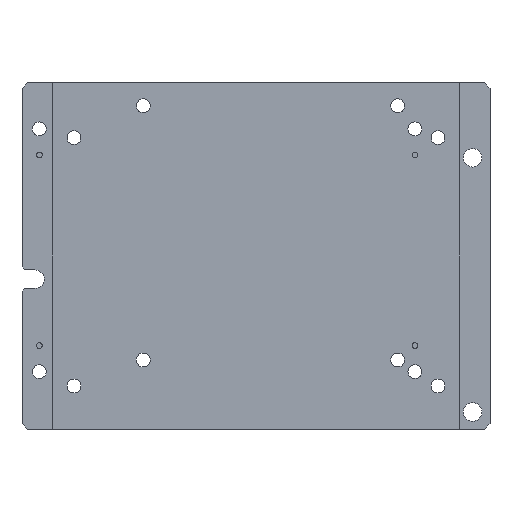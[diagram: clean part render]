
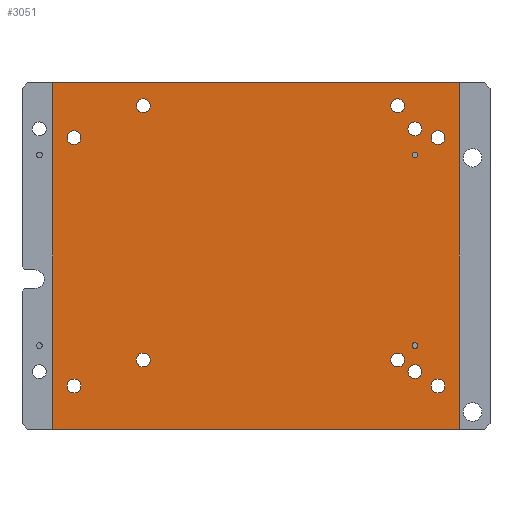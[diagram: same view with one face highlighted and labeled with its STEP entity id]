
A CAD part, front view. The second image highlights one B-rep face of the part: STEP entity #3051.
In plain terms, the highlighted planar face has unit normal (0, -1, 0).
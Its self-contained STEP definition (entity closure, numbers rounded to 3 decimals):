
#740=CARTESIAN_POINT('Axis2P3D Location',(32.5,-6.75,22.5)) ;
#744=CARTESIAN_POINT('Vertex',(32.,-6.75,22.5)) ;
#746=CARTESIAN_POINT('Vertex',(33.,-6.75,22.5)) ;
#775=CARTESIAN_POINT('Axis2P3D Location',(32.5,-6.75,22.5)) ;
#797=CARTESIAN_POINT('Axis2P3D Location',(32.5,-6.75,55.5)) ;
#801=CARTESIAN_POINT('Vertex',(32.,-6.75,55.5)) ;
#803=CARTESIAN_POINT('Vertex',(33.,-6.75,55.5)) ;
#832=CARTESIAN_POINT('Axis2P3D Location',(32.5,-6.75,55.5)) ;
#854=CARTESIAN_POINT('Axis2P3D Location',(-26.5,-6.75,58.5)) ;
#858=CARTESIAN_POINT('Vertex',(-27.7,-6.75,58.5)) ;
#860=CARTESIAN_POINT('Vertex',(-25.3,-6.75,58.5)) ;
#889=CARTESIAN_POINT('Axis2P3D Location',(-26.5,-6.75,58.5)) ;
#911=CARTESIAN_POINT('Axis2P3D Location',(-26.5,-6.75,15.5)) ;
#915=CARTESIAN_POINT('Vertex',(-27.7,-6.75,15.5)) ;
#917=CARTESIAN_POINT('Vertex',(-25.3,-6.75,15.5)) ;
#946=CARTESIAN_POINT('Axis2P3D Location',(-26.5,-6.75,15.5)) ;
#968=CARTESIAN_POINT('Axis2P3D Location',(32.5,-6.75,60.)) ;
#972=CARTESIAN_POINT('Vertex',(31.3,-6.75,60.)) ;
#974=CARTESIAN_POINT('Vertex',(33.7,-6.75,60.)) ;
#1003=CARTESIAN_POINT('Axis2P3D Location',(32.5,-6.75,60.)) ;
#1025=CARTESIAN_POINT('Axis2P3D Location',(36.5,-6.75,15.5)) ;
#1029=CARTESIAN_POINT('Vertex',(35.3,-6.75,15.5)) ;
#1031=CARTESIAN_POINT('Vertex',(37.7,-6.75,15.5)) ;
#1060=CARTESIAN_POINT('Axis2P3D Location',(36.5,-6.75,15.5)) ;
#1082=CARTESIAN_POINT('Axis2P3D Location',(32.5,-6.75,18.)) ;
#1086=CARTESIAN_POINT('Vertex',(31.3,-6.75,18.)) ;
#1088=CARTESIAN_POINT('Vertex',(33.7,-6.75,18.)) ;
#1117=CARTESIAN_POINT('Axis2P3D Location',(32.5,-6.75,18.)) ;
#1139=CARTESIAN_POINT('Axis2P3D Location',(36.5,-6.75,58.5)) ;
#1143=CARTESIAN_POINT('Vertex',(35.3,-6.75,58.5)) ;
#1145=CARTESIAN_POINT('Vertex',(37.7,-6.75,58.5)) ;
#1174=CARTESIAN_POINT('Axis2P3D Location',(36.5,-6.75,58.5)) ;
#1202=CARTESIAN_POINT('Vertex',(-30.2,-6.75,8.)) ;
#1205=CARTESIAN_POINT('Line Origine',(-30.2,-6.75,38.)) ;
#1209=CARTESIAN_POINT('Vertex',(-30.2,-6.75,68.)) ;
#1242=CARTESIAN_POINT('Vertex',(40.2,-6.75,68.)) ;
#1245=CARTESIAN_POINT('Line Origine',(40.2,-6.75,38.)) ;
#1249=CARTESIAN_POINT('Vertex',(40.2,-6.75,8.)) ;
#2441=CARTESIAN_POINT('Line Origine',(5.,-6.75,68.)) ;
#2720=CARTESIAN_POINT('Line Origine',(5.,-6.75,8.)) ;
#2936=CARTESIAN_POINT('Axis2P3D Location',(0.,-6.75,0.)) ;
#2979=CARTESIAN_POINT('Axis2P3D Location',(29.5,-6.75,64.)) ;
#2983=CARTESIAN_POINT('Vertex',(30.7,-6.75,64.)) ;
#2985=CARTESIAN_POINT('Vertex',(28.3,-6.75,64.)) ;
#2988=CARTESIAN_POINT('Axis2P3D Location',(29.5,-6.75,64.)) ;
#2997=CARTESIAN_POINT('Axis2P3D Location',(29.5,-6.75,20.)) ;
#3001=CARTESIAN_POINT('Vertex',(30.7,-6.75,20.)) ;
#3003=CARTESIAN_POINT('Vertex',(28.3,-6.75,20.)) ;
#3006=CARTESIAN_POINT('Axis2P3D Location',(29.5,-6.75,20.)) ;
#3015=CARTESIAN_POINT('Axis2P3D Location',(-14.5,-6.75,64.)) ;
#3019=CARTESIAN_POINT('Vertex',(-13.3,-6.75,64.)) ;
#3021=CARTESIAN_POINT('Vertex',(-15.7,-6.75,64.)) ;
#3024=CARTESIAN_POINT('Axis2P3D Location',(-14.5,-6.75,64.)) ;
#3033=CARTESIAN_POINT('Axis2P3D Location',(-14.5,-6.75,20.)) ;
#3037=CARTESIAN_POINT('Vertex',(-13.3,-6.75,20.)) ;
#3039=CARTESIAN_POINT('Vertex',(-15.7,-6.75,20.)) ;
#3042=CARTESIAN_POINT('Axis2P3D Location',(-14.5,-6.75,20.)) ;
#1207=VECTOR('Line Direction',#1206,1.) ;
#1247=VECTOR('Line Direction',#1246,1.) ;
#2443=VECTOR('Line Direction',#2442,1.) ;
#2722=VECTOR('Line Direction',#2721,1.) ;
#741=DIRECTION('Axis2P3D Direction',(-0.,1.,0.)) ;
#776=DIRECTION('Axis2P3D Direction',(-0.,1.,0.)) ;
#798=DIRECTION('Axis2P3D Direction',(-0.,1.,0.)) ;
#833=DIRECTION('Axis2P3D Direction',(-0.,1.,0.)) ;
#855=DIRECTION('Axis2P3D Direction',(-0.,1.,0.)) ;
#890=DIRECTION('Axis2P3D Direction',(-0.,1.,0.)) ;
#912=DIRECTION('Axis2P3D Direction',(-0.,1.,0.)) ;
#947=DIRECTION('Axis2P3D Direction',(-0.,1.,0.)) ;
#969=DIRECTION('Axis2P3D Direction',(-0.,1.,0.)) ;
#1004=DIRECTION('Axis2P3D Direction',(-0.,1.,0.)) ;
#1026=DIRECTION('Axis2P3D Direction',(-0.,1.,0.)) ;
#1061=DIRECTION('Axis2P3D Direction',(-0.,1.,0.)) ;
#1083=DIRECTION('Axis2P3D Direction',(-0.,1.,0.)) ;
#1118=DIRECTION('Axis2P3D Direction',(-0.,1.,0.)) ;
#1140=DIRECTION('Axis2P3D Direction',(-0.,1.,0.)) ;
#1175=DIRECTION('Axis2P3D Direction',(-0.,1.,0.)) ;
#1206=DIRECTION('Vector Direction',(0.,0.,-1.)) ;
#1246=DIRECTION('Vector Direction',(0.,0.,1.)) ;
#2442=DIRECTION('Vector Direction',(1.,0.,0.)) ;
#2721=DIRECTION('Vector Direction',(1.,0.,0.)) ;
#2937=DIRECTION('Axis2P3D Direction',(0.,-1.,0.)) ;
#2938=DIRECTION('Axis2P3D XDirection',(1.,0.,0.)) ;
#2980=DIRECTION('Axis2P3D Direction',(0.,-1.,0.)) ;
#2989=DIRECTION('Axis2P3D Direction',(0.,-1.,0.)) ;
#2998=DIRECTION('Axis2P3D Direction',(0.,-1.,0.)) ;
#3007=DIRECTION('Axis2P3D Direction',(0.,-1.,0.)) ;
#3016=DIRECTION('Axis2P3D Direction',(0.,-1.,0.)) ;
#3025=DIRECTION('Axis2P3D Direction',(0.,-1.,0.)) ;
#3034=DIRECTION('Axis2P3D Direction',(0.,-1.,0.)) ;
#3043=DIRECTION('Axis2P3D Direction',(0.,-1.,0.)) ;
#742=AXIS2_PLACEMENT_3D('Circle Axis2P3D',#740,#741,$) ;
#777=AXIS2_PLACEMENT_3D('Circle Axis2P3D',#775,#776,$) ;
#799=AXIS2_PLACEMENT_3D('Circle Axis2P3D',#797,#798,$) ;
#834=AXIS2_PLACEMENT_3D('Circle Axis2P3D',#832,#833,$) ;
#856=AXIS2_PLACEMENT_3D('Circle Axis2P3D',#854,#855,$) ;
#891=AXIS2_PLACEMENT_3D('Circle Axis2P3D',#889,#890,$) ;
#913=AXIS2_PLACEMENT_3D('Circle Axis2P3D',#911,#912,$) ;
#948=AXIS2_PLACEMENT_3D('Circle Axis2P3D',#946,#947,$) ;
#970=AXIS2_PLACEMENT_3D('Circle Axis2P3D',#968,#969,$) ;
#1005=AXIS2_PLACEMENT_3D('Circle Axis2P3D',#1003,#1004,$) ;
#1027=AXIS2_PLACEMENT_3D('Circle Axis2P3D',#1025,#1026,$) ;
#1062=AXIS2_PLACEMENT_3D('Circle Axis2P3D',#1060,#1061,$) ;
#1084=AXIS2_PLACEMENT_3D('Circle Axis2P3D',#1082,#1083,$) ;
#1119=AXIS2_PLACEMENT_3D('Circle Axis2P3D',#1117,#1118,$) ;
#1141=AXIS2_PLACEMENT_3D('Circle Axis2P3D',#1139,#1140,$) ;
#1176=AXIS2_PLACEMENT_3D('Circle Axis2P3D',#1174,#1175,$) ;
#2939=AXIS2_PLACEMENT_3D('Plane Axis2P3D',#2936,#2937,#2938) ;
#2981=AXIS2_PLACEMENT_3D('Circle Axis2P3D',#2979,#2980,$) ;
#2990=AXIS2_PLACEMENT_3D('Circle Axis2P3D',#2988,#2989,$) ;
#2999=AXIS2_PLACEMENT_3D('Circle Axis2P3D',#2997,#2998,$) ;
#3008=AXIS2_PLACEMENT_3D('Circle Axis2P3D',#3006,#3007,$) ;
#3017=AXIS2_PLACEMENT_3D('Circle Axis2P3D',#3015,#3016,$) ;
#3026=AXIS2_PLACEMENT_3D('Circle Axis2P3D',#3024,#3025,$) ;
#3035=AXIS2_PLACEMENT_3D('Circle Axis2P3D',#3033,#3034,$) ;
#3044=AXIS2_PLACEMENT_3D('Circle Axis2P3D',#3042,#3043,$) ;
#1208=LINE('Line',#1205,#1207) ;
#1248=LINE('Line',#1245,#1247) ;
#2444=LINE('Line',#2441,#2443) ;
#2723=LINE('Line',#2720,#2722) ;
#743=CIRCLE('generated circle',#742,0.5) ;
#778=CIRCLE('generated circle',#777,0.5) ;
#800=CIRCLE('generated circle',#799,0.5) ;
#835=CIRCLE('generated circle',#834,0.5) ;
#857=CIRCLE('generated circle',#856,1.2) ;
#892=CIRCLE('generated circle',#891,1.2) ;
#914=CIRCLE('generated circle',#913,1.2) ;
#949=CIRCLE('generated circle',#948,1.2) ;
#971=CIRCLE('generated circle',#970,1.2) ;
#1006=CIRCLE('generated circle',#1005,1.2) ;
#1028=CIRCLE('generated circle',#1027,1.2) ;
#1063=CIRCLE('generated circle',#1062,1.2) ;
#1085=CIRCLE('generated circle',#1084,1.2) ;
#1120=CIRCLE('generated circle',#1119,1.2) ;
#1142=CIRCLE('generated circle',#1141,1.2) ;
#1177=CIRCLE('generated circle',#1176,1.2) ;
#2982=CIRCLE('generated circle',#2981,1.2) ;
#2991=CIRCLE('generated circle',#2990,1.2) ;
#3000=CIRCLE('generated circle',#2999,1.2) ;
#3009=CIRCLE('generated circle',#3008,1.2) ;
#3018=CIRCLE('generated circle',#3017,1.2) ;
#3027=CIRCLE('generated circle',#3026,1.2) ;
#3036=CIRCLE('generated circle',#3035,1.2) ;
#3045=CIRCLE('generated circle',#3044,1.2) ;
#2940=PLANE('',#2939) ;
#2950=FACE_BOUND('',#2947,.T.) ;
#2954=FACE_BOUND('',#2951,.T.) ;
#2958=FACE_BOUND('',#2955,.T.) ;
#2962=FACE_BOUND('',#2959,.T.) ;
#2966=FACE_BOUND('',#2963,.T.) ;
#2970=FACE_BOUND('',#2967,.T.) ;
#2974=FACE_BOUND('',#2971,.T.) ;
#2978=FACE_BOUND('',#2975,.T.) ;
#2996=FACE_BOUND('',#2993,.T.) ;
#3014=FACE_BOUND('',#3011,.T.) ;
#3032=FACE_BOUND('',#3029,.T.) ;
#3050=FACE_BOUND('',#3047,.T.) ;
#748=EDGE_CURVE('',#745,#747,#743,.F.) ;
#779=EDGE_CURVE('',#747,#745,#778,.F.) ;
#805=EDGE_CURVE('',#802,#804,#800,.F.) ;
#836=EDGE_CURVE('',#804,#802,#835,.F.) ;
#862=EDGE_CURVE('',#859,#861,#857,.F.) ;
#893=EDGE_CURVE('',#861,#859,#892,.F.) ;
#919=EDGE_CURVE('',#916,#918,#914,.F.) ;
#950=EDGE_CURVE('',#918,#916,#949,.F.) ;
#976=EDGE_CURVE('',#973,#975,#971,.F.) ;
#1007=EDGE_CURVE('',#975,#973,#1006,.F.) ;
#1033=EDGE_CURVE('',#1030,#1032,#1028,.F.) ;
#1064=EDGE_CURVE('',#1032,#1030,#1063,.F.) ;
#1090=EDGE_CURVE('',#1087,#1089,#1085,.F.) ;
#1121=EDGE_CURVE('',#1089,#1087,#1120,.F.) ;
#1147=EDGE_CURVE('',#1144,#1146,#1142,.F.) ;
#1178=EDGE_CURVE('',#1146,#1144,#1177,.F.) ;
#1211=EDGE_CURVE('',#1210,#1203,#1208,.T.) ;
#1251=EDGE_CURVE('',#1250,#1243,#1248,.T.) ;
#2445=EDGE_CURVE('',#1210,#1243,#2444,.T.) ;
#2724=EDGE_CURVE('',#1203,#1250,#2723,.T.) ;
#2987=EDGE_CURVE('',#2984,#2986,#2982,.T.) ;
#2992=EDGE_CURVE('',#2986,#2984,#2991,.T.) ;
#3005=EDGE_CURVE('',#3002,#3004,#3000,.T.) ;
#3010=EDGE_CURVE('',#3004,#3002,#3009,.T.) ;
#3023=EDGE_CURVE('',#3020,#3022,#3018,.T.) ;
#3028=EDGE_CURVE('',#3022,#3020,#3027,.T.) ;
#3041=EDGE_CURVE('',#3038,#3040,#3036,.T.) ;
#3046=EDGE_CURVE('',#3040,#3038,#3045,.T.) ;
#2942=ORIENTED_EDGE('',*,*,#2445,.F.) ;
#2943=ORIENTED_EDGE('',*,*,#1211,.T.) ;
#2944=ORIENTED_EDGE('',*,*,#2724,.T.) ;
#2945=ORIENTED_EDGE('',*,*,#1251,.T.) ;
#2948=ORIENTED_EDGE('',*,*,#1178,.F.) ;
#2949=ORIENTED_EDGE('',*,*,#1147,.F.) ;
#2952=ORIENTED_EDGE('',*,*,#1121,.F.) ;
#2953=ORIENTED_EDGE('',*,*,#1090,.F.) ;
#2956=ORIENTED_EDGE('',*,*,#1064,.F.) ;
#2957=ORIENTED_EDGE('',*,*,#1033,.F.) ;
#2960=ORIENTED_EDGE('',*,*,#1007,.F.) ;
#2961=ORIENTED_EDGE('',*,*,#976,.F.) ;
#2964=ORIENTED_EDGE('',*,*,#950,.F.) ;
#2965=ORIENTED_EDGE('',*,*,#919,.F.) ;
#2968=ORIENTED_EDGE('',*,*,#893,.F.) ;
#2969=ORIENTED_EDGE('',*,*,#862,.F.) ;
#2972=ORIENTED_EDGE('',*,*,#836,.F.) ;
#2973=ORIENTED_EDGE('',*,*,#805,.F.) ;
#2976=ORIENTED_EDGE('',*,*,#779,.F.) ;
#2977=ORIENTED_EDGE('',*,*,#748,.F.) ;
#2994=ORIENTED_EDGE('',*,*,#2987,.F.) ;
#2995=ORIENTED_EDGE('',*,*,#2992,.F.) ;
#3012=ORIENTED_EDGE('',*,*,#3005,.F.) ;
#3013=ORIENTED_EDGE('',*,*,#3010,.F.) ;
#3030=ORIENTED_EDGE('',*,*,#3023,.F.) ;
#3031=ORIENTED_EDGE('',*,*,#3028,.F.) ;
#3048=ORIENTED_EDGE('',*,*,#3041,.F.) ;
#3049=ORIENTED_EDGE('',*,*,#3046,.F.) ;
#2941=EDGE_LOOP('',(#2942,#2943,#2944,#2945)) ;
#2947=EDGE_LOOP('',(#2948,#2949)) ;
#2951=EDGE_LOOP('',(#2952,#2953)) ;
#2955=EDGE_LOOP('',(#2956,#2957)) ;
#2959=EDGE_LOOP('',(#2960,#2961)) ;
#2963=EDGE_LOOP('',(#2964,#2965)) ;
#2967=EDGE_LOOP('',(#2968,#2969)) ;
#2971=EDGE_LOOP('',(#2972,#2973)) ;
#2975=EDGE_LOOP('',(#2976,#2977)) ;
#2993=EDGE_LOOP('',(#2994,#2995)) ;
#3011=EDGE_LOOP('',(#3012,#3013)) ;
#3029=EDGE_LOOP('',(#3030,#3031)) ;
#3047=EDGE_LOOP('',(#3048,#3049)) ;
#745=VERTEX_POINT('',#744) ;
#747=VERTEX_POINT('',#746) ;
#802=VERTEX_POINT('',#801) ;
#804=VERTEX_POINT('',#803) ;
#859=VERTEX_POINT('',#858) ;
#861=VERTEX_POINT('',#860) ;
#916=VERTEX_POINT('',#915) ;
#918=VERTEX_POINT('',#917) ;
#973=VERTEX_POINT('',#972) ;
#975=VERTEX_POINT('',#974) ;
#1030=VERTEX_POINT('',#1029) ;
#1032=VERTEX_POINT('',#1031) ;
#1087=VERTEX_POINT('',#1086) ;
#1089=VERTEX_POINT('',#1088) ;
#1144=VERTEX_POINT('',#1143) ;
#1146=VERTEX_POINT('',#1145) ;
#1203=VERTEX_POINT('',#1202) ;
#1210=VERTEX_POINT('',#1209) ;
#1243=VERTEX_POINT('',#1242) ;
#1250=VERTEX_POINT('',#1249) ;
#2984=VERTEX_POINT('',#2983) ;
#2986=VERTEX_POINT('',#2985) ;
#3002=VERTEX_POINT('',#3001) ;
#3004=VERTEX_POINT('',#3003) ;
#3020=VERTEX_POINT('',#3019) ;
#3022=VERTEX_POINT('',#3021) ;
#3038=VERTEX_POINT('',#3037) ;
#3040=VERTEX_POINT('',#3039) ;
#3051=ADVANCED_FACE('\X2\FF8AFF9FFF70FF82\X0\ \X2\FF8EFF9EFF83FF9EFF68FF70\X0\',(#2946,#2950,#2954,#2958,#2962,#2966,#2970,#2974,#2978,#2996,#3014,#3032,#3050),#2940,.T.) ;
#2946=FACE_OUTER_BOUND('',#2941,.T.) ;
